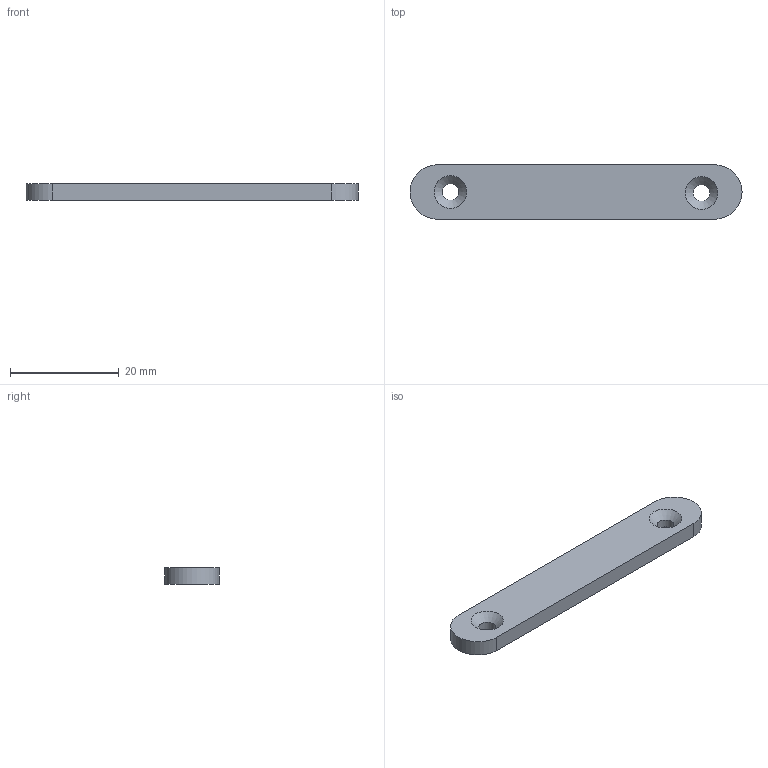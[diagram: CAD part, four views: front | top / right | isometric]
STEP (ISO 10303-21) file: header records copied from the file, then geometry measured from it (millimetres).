
FILE_DESCRIPTION(/* description */ (''),/* implementation_level */ '2;1');
FILE_NAME(/* name */ 'D:\IN 制图\设备\手动剥线机带侧刀4.02\工程图\前标尺压板.stp',/* time_stamp */ '2026-06-21T18:51:14+08:00',/* author */ ('ROG'),/* organization */ (''),/* preprocessor_version */ 'ST-DEVELOPER v19',/* originating_system */ 'Autodesk Inventor 2023',/* authorisation */ '');
FILE_SCHEMA (('AUTOMOTIVE_DESIGN { 1 0 10303 214 3 1 1 }'));
Length unit declared in the file: millimetre
Products named in the file (1): 前标尺压板
Bounding box: 61.1 x 10 x 3 mm (x, y, z)
Volume: 1695.7 mm3; surface area: 1596.6 mm2
Topology: 1 solids, 1 shells, 10 faces, 22 edges, 14 vertices
Faces by surface type: cylinder 4, plane 4, cone 2
Full cylindrical faces by diameter (mm): 3.1 x2
Entity records: 348 total; most frequent: DIRECTION 54, CARTESIAN_POINT 47, ORIENTED_EDGE 44, EDGE_CURVE 22, AXIS2_PLACEMENT_3D 21, EDGE_LOOP 14, VERTEX_POINT 14, LINE 12
